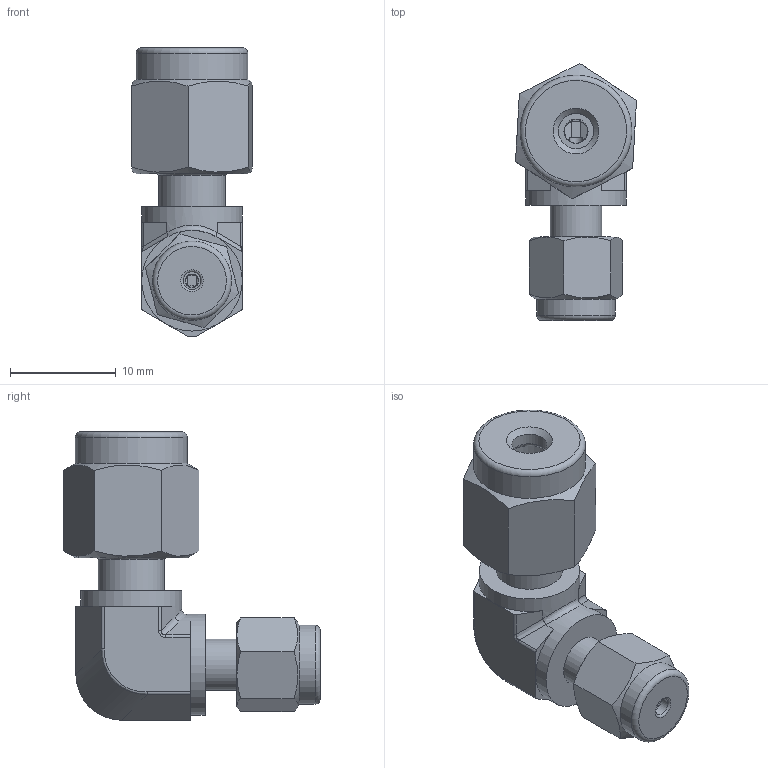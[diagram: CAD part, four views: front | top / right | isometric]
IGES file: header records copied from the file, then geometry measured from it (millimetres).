
Global section: file name: No Iges File Name specified; native system: Autodesk Inventor 2012; preprocessor: AutoDesk Inventor Iges Exporter R2012; author: 硅己绕,,1; organization: 1; date: 20150428.192452; units: millimetre
Bounding box: 11.46 x 24.3 x 27.31 mm (x, y, z)
Volume: 2477.5 mm3; surface area: 2292.4 mm2
Topology: 3 solids, 3 shells, 109 faces, 235 edges, 138 vertices
Faces by surface type: plane 45, revolution 20, cylinder 19, cone 12, bspline 8, torus 5
Full cylindrical faces by diameter (mm): 3.5 x1, 4.861 x1, 6.28 x2, 7.5 x1, 7.94 x1, 9.53 x2, 10.6 x1
